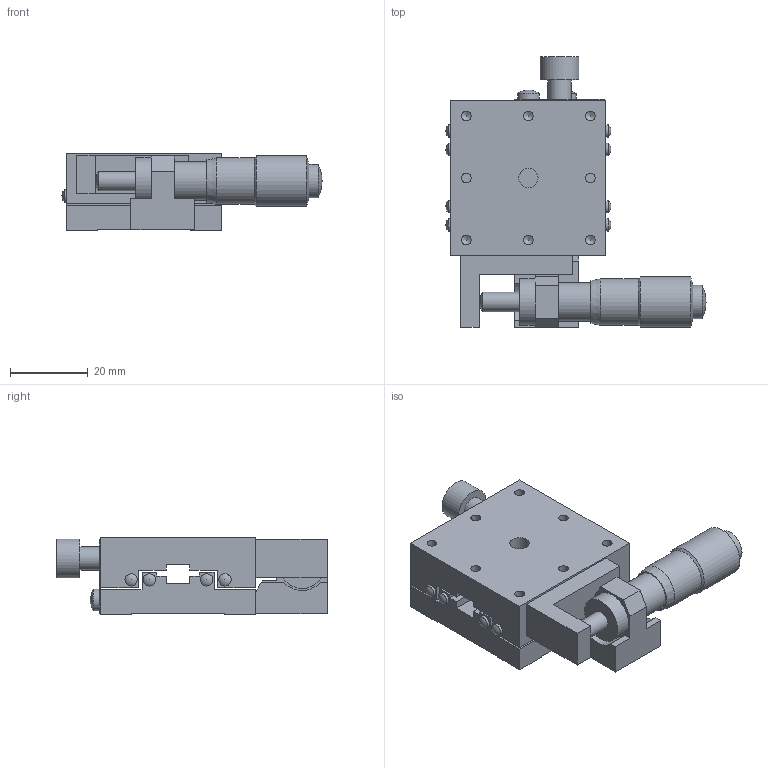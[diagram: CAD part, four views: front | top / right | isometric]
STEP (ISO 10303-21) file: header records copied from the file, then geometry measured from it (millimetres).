
FILE_DESCRIPTION( ( 'STEP AP214' ), '1' );
FILE_NAME( 'C:/Project/3D_B11-40C-配布-070508.stp', '2007-05-08T10:42:02', ( ' ' ), ( ' ' ), 'XStep 1.0', ' ', ' ' );
FILE_SCHEMA( ( 'automotive_design' ) );
Length unit declared in the file: millimetre
Products named in the file (3): 1; 2; 3
Bounding box: 67.15 x 69.8 x 20 mm (x, y, z)
Volume: 37878.8 mm3; surface area: 18560 mm2
Topology: 3 solids, 3 shells, 161 faces, 419 edges, 275 vertices
Faces by surface type: plane 86, cylinder 54, sphere 12, cone 9
Full cylindrical faces by diameter (mm): 2.5 x16, 3 x1, 3.2 x8, 3.5 x4, 5 x3, 5.6 x2, 6 x5, 8.6 x1, 10 x2, 10.5 x1, 12 x2, 13 x1
Entity records: 5627 total; most frequent: DIRECTION 743, CARTESIAN_POINT 721, ORIENTED_EDGE 628, EDGE_CURVE 314, AXIS2_PLACEMENT_3D 265, EDGE_LOOP 257, VERTEX_POINT 243, LINE 213
